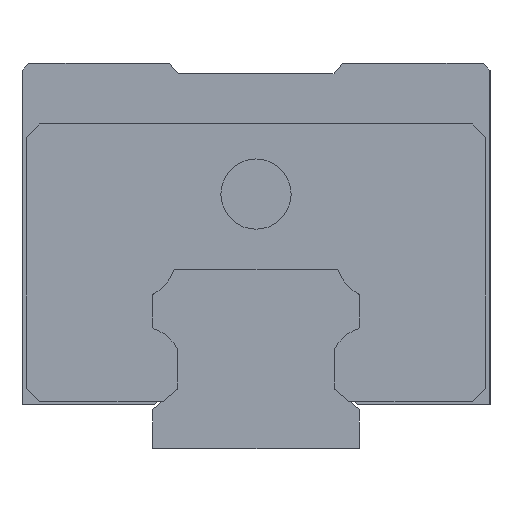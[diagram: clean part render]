
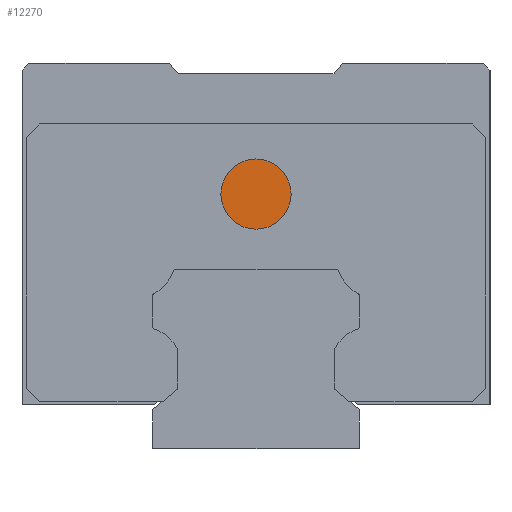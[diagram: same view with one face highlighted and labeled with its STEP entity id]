
A CAD part, left-side view. The second image highlights one B-rep face of the part: STEP entity #12270.
In plain terms, the highlighted planar face has unit normal (-1, 0, 0).
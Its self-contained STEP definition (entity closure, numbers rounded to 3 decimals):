
#754 = CIRCLE ( 'NONE', #11980, 2.55 ) ;
#1331 = DIRECTION ( 'NONE',  ( -1., 0., 0. ) ) ;
#1466 = CARTESIAN_POINT ( 'NONE',  ( -19.75, 0., 18.5 ) ) ;
#3359 = DIRECTION ( 'NONE',  ( 1., 0., 0. ) ) ;
#4305 = EDGE_CURVE ( 'NONE', #4369, #8971, #754, .T. ) ;
#4369 = VERTEX_POINT ( 'NONE', #11502 ) ;
#5200 = CIRCLE ( 'NONE', #6467, 2.55 ) ;
#6467 = AXIS2_PLACEMENT_3D ( 'NONE', #1466, #9351, #11415 ) ;
#7416 = DIRECTION ( 'NONE',  ( 0., 0., -1. ) ) ;
#8243 = CARTESIAN_POINT ( 'NONE',  ( -19.75, 0., 18.5 ) ) ;
#8528 = CARTESIAN_POINT ( 'NONE',  ( -19.75, 0., 18.5 ) ) ;
#8946 = EDGE_LOOP ( 'NONE', ( #11619, #9281 ) ) ;
#8971 = VERTEX_POINT ( 'NONE', #10721 ) ;
#9281 = ORIENTED_EDGE ( 'NONE', *, *, #12182, .F. ) ;
#9351 = DIRECTION ( 'NONE',  ( 1., 0., 0. ) ) ;
#9489 = DIRECTION ( 'NONE',  ( 0., 0., 1. ) ) ;
#10472 = PLANE ( 'NONE',  #10909 ) ;
#10721 = CARTESIAN_POINT ( 'NONE',  ( -19.75, 0., 15.95 ) ) ;
#10909 = AXIS2_PLACEMENT_3D ( 'NONE', #8243, #1331, #9489 ) ;
#11415 = DIRECTION ( 'NONE',  ( 0., 0., -1. ) ) ;
#11502 = CARTESIAN_POINT ( 'NONE',  ( -19.75, 0., 21.05 ) ) ;
#11619 = ORIENTED_EDGE ( 'NONE', *, *, #4305, .F. ) ;
#11980 = AXIS2_PLACEMENT_3D ( 'NONE', #8528, #3359, #7416 ) ;
#12182 = EDGE_CURVE ( 'NONE', #8971, #4369, #5200, .T. ) ;
#12270 = ADVANCED_FACE ( 'NONE', ( #12330 ), #10472, .T. ) ;
#12330 = FACE_OUTER_BOUND ( 'NONE', #8946, .T. ) ;
